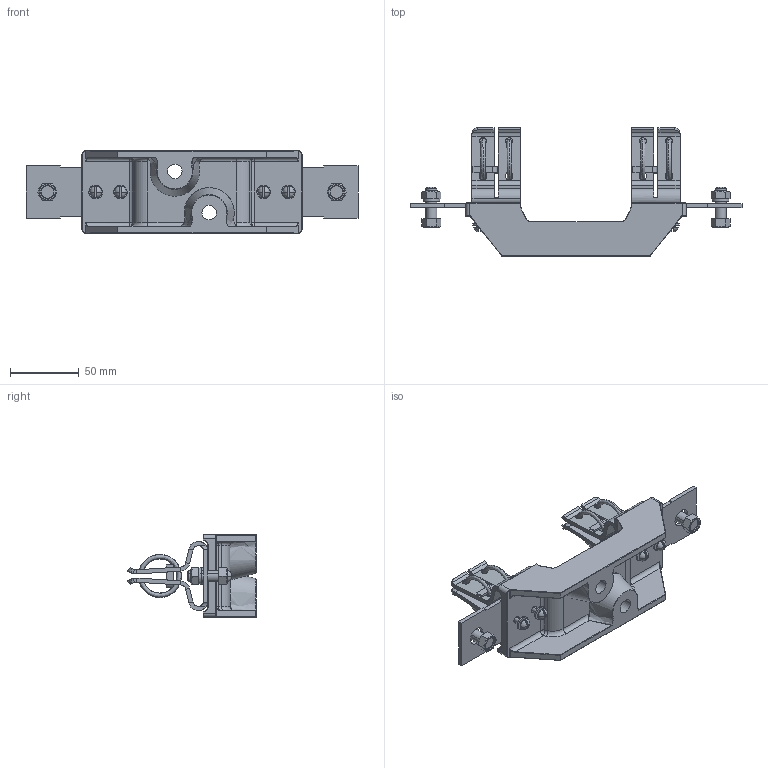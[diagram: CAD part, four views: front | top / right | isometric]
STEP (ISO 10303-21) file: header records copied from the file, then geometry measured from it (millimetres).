
FILE_DESCRIPTION (( 'STEP AP214' ), '1' );
FILE_NAME ('ﾎ魵瑙韃 ﾏﾏﾍ-3-ﾈ1-ﾓﾕﾋ3-ﾊﾝﾀ.STEP', '2023-05-26T06:12:15', ( '' ), ( '' ), 'SwSTEP 2.0', 'SolidWorks 2018', '' );
FILE_SCHEMA (( 'AUTOMOTIVE_DESIGN' ));
Length unit declared in the file: millimetre
Products named in the file (1): ﾎ魵瑙韃 ﾏﾏﾍ-3-ﾈ1-ﾓﾕﾋ3-ﾊﾝﾀ
Bounding box: 241 x 93 x 60 mm (x, y, z)
Volume: 162939.5 mm3; surface area: 85675.1 mm2
Topology: 25 solids, 25 shells, 778 faces, 1759 edges, 1025 vertices
Faces by surface type: plane 342, cylinder 264, bspline 66, torus 58, sphere 32, cone 16
Entity records: 33526 total; most frequent: CARTESIAN_POINT 7632, DIRECTION 3647, ORIENTED_EDGE 3462, EDGE_CURVE 1731, AXIS2_PLACEMENT_3D 1405, VERTEX_POINT 1025, EDGE_LOOP 864, LINE 837
